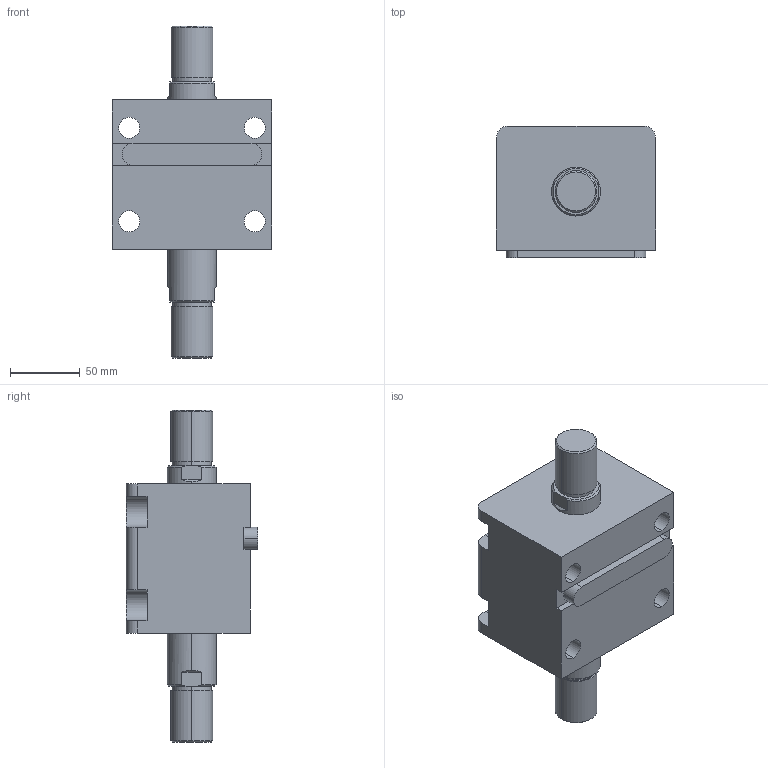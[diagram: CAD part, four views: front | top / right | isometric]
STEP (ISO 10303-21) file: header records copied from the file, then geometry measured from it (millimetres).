
FILE_DESCRIPTION (( 'STEP AP203' ), '1' );
FILE_NAME ('HTB-LW63-25W.STEP', '2019-10-09T08:24:42', ( '微软用户' ), ( '微软中国' ), 'SwSTEP 2.0', 'SolidWorks 2012', '' );
FILE_SCHEMA (( 'CONFIG_CONTROL_DESIGN' ));
Length unit declared in the file: millimetre
Products named in the file (4): HTB-LW63-25W; HTB-LA63-瑩; HTB-LW63-25W活塞杆; HTB-LW63-25掛极
Assembly tree (3 placements, depth 2):
  HTB-LW63-25W
    HTB-LW63-25掛极
    HTB-LW63-25W活塞杆
    HTB-LA63-瑩
Bounding box: 114 x 94.5 x 238 mm (x, y, z)
Volume: 1058307.1 mm3; surface area: 135886.6 mm2
Topology: 3 solids, 3 shells, 109 faces, 265 edges, 174 vertices
Faces by surface type: plane 48, cylinder 45, cone 12, torus 4
Entity records: 3679 total; most frequent: CARTESIAN_POINT 610, DIRECTION 593, ORIENTED_EDGE 530, EDGE_CURVE 265, AXIS2_PLACEMENT_3D 229, VERTEX_POINT 174, LINE 135, VECTOR 135
